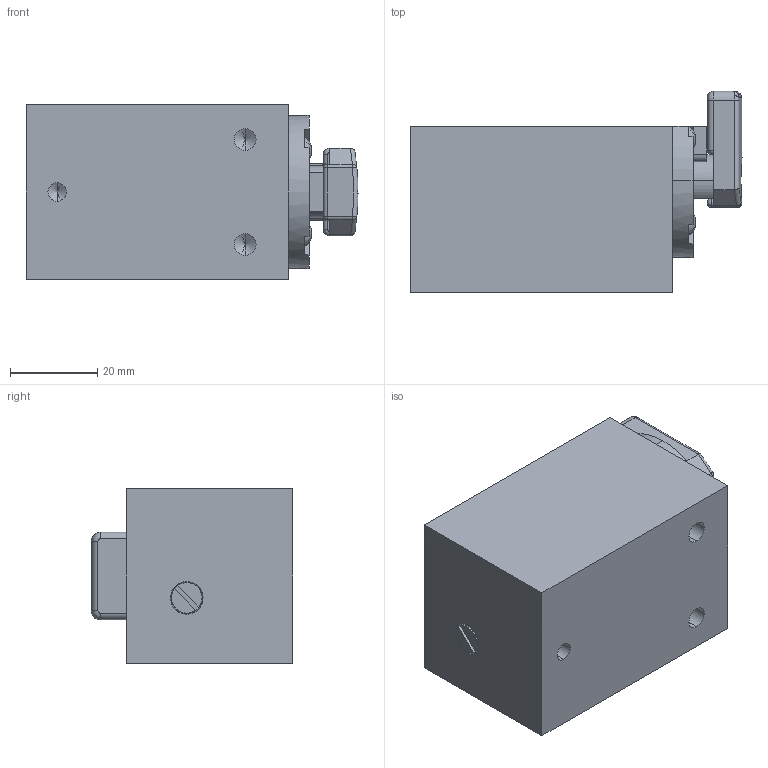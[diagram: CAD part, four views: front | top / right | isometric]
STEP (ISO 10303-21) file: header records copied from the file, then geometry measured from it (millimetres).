
FILE_DESCRIPTION (( 'STEP AP203' ), '1' );
FILE_NAME ('DBSQ-20-60_mit_Anschlag_11536.STEP', '2017-01-19T12:54:37', ( 'test' ), ( '' ), 'SwSTEP 2.0', 'SolidWorks 2016', '' );
FILE_SCHEMA (( 'CONFIG_CONTROL_DESIGN' ));
Length unit declared in the file: millimetre
Products named in the file (1): DBSQ-20-60_mit_Anschlag_11536
Bounding box: 75.9 x 45.99 x 40 mm (x, y, z)
Volume: 98654.4 mm3; surface area: 15692.7 mm2
Topology: 1 solids, 1 shells, 192 faces, 492 edges, 296 vertices
Faces by surface type: plane 97, cylinder 56, sphere 15, cone 10, torus 8, bspline 6
Entity records: 5976 total; most frequent: CARTESIAN_POINT 1225, DIRECTION 1041, ORIENTED_EDGE 956, EDGE_CURVE 478, AXIS2_PLACEMENT_3D 394, VERTEX_POINT 296, LINE 253, VECTOR 253
